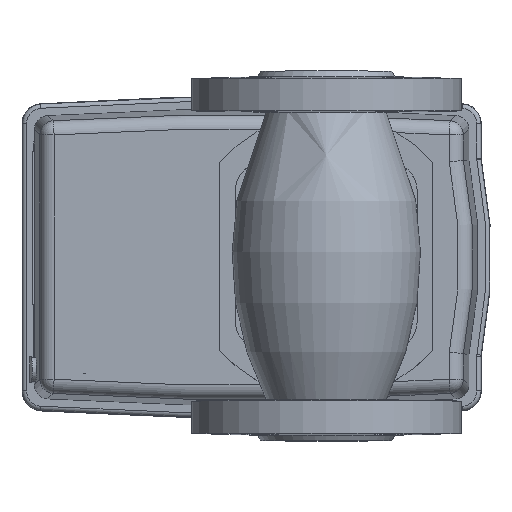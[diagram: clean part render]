
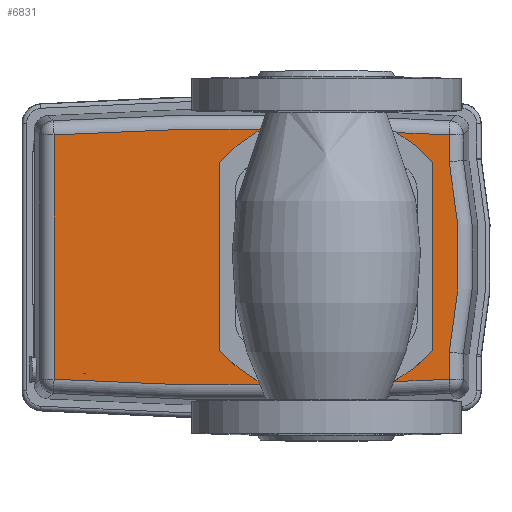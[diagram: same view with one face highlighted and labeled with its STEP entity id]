
A CAD part, top view. The second image highlights one B-rep face of the part: STEP entity #6831.
In plain terms, the highlighted planar face has unit normal (0, 0, 1).
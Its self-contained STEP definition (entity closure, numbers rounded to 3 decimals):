
#227=PLANE('',#7328);
#531=LINE('',#10187,#855);
#532=LINE('',#10191,#856);
#533=LINE('',#10195,#857);
#534=LINE('',#10199,#858);
#855=VECTOR('',#8565,1000.);
#856=VECTOR('',#8568,1000.);
#857=VECTOR('',#8571,1000.);
#858=VECTOR('',#8574,1000.);
#1908=ORIENTED_EDGE('',*,*,#2815,.T.);
#1909=ORIENTED_EDGE('',*,*,#2816,.T.);
#1910=ORIENTED_EDGE('',*,*,#2817,.F.);
#1911=ORIENTED_EDGE('',*,*,#2818,.T.);
#1912=ORIENTED_EDGE('',*,*,#2819,.F.);
#1913=ORIENTED_EDGE('',*,*,#2820,.T.);
#1914=ORIENTED_EDGE('',*,*,#2821,.F.);
#1915=ORIENTED_EDGE('',*,*,#2822,.T.);
#1916=ORIENTED_EDGE('',*,*,#2823,.T.);
#2815=EDGE_CURVE('',#3324,#3325,#3621,.T.);
#2816=EDGE_CURVE('',#3325,#3324,#531,.T.);
#2817=EDGE_CURVE('',#3326,#3327,#3622,.T.);
#2818=EDGE_CURVE('',#3326,#3328,#532,.T.);
#2819=EDGE_CURVE('',#3329,#3328,#3623,.T.);
#2820=EDGE_CURVE('',#3329,#3330,#533,.T.);
#2821=EDGE_CURVE('',#3331,#3330,#3624,.T.);
#2822=EDGE_CURVE('',#3331,#3327,#534,.T.);
#2823=EDGE_CURVE('',#3332,#3332,#3625,.T.);
#3324=VERTEX_POINT('',#10185);
#3325=VERTEX_POINT('',#10186);
#3326=VERTEX_POINT('',#10189);
#3327=VERTEX_POINT('',#10190);
#3328=VERTEX_POINT('',#10192);
#3329=VERTEX_POINT('',#10194);
#3330=VERTEX_POINT('',#10196);
#3331=VERTEX_POINT('',#10198);
#3332=VERTEX_POINT('',#10201);
#3621=CIRCLE('',#7329,8.5);
#3622=CIRCLE('',#7330,1090.687);
#3623=CIRCLE('',#7331,163.687);
#3624=CIRCLE('',#7332,1090.687);
#3625=CIRCLE('',#7333,25.358);
#3922=EDGE_LOOP('',(#1908,#1909));
#3923=EDGE_LOOP('',(#1910,#1911,#1912,#1913,#1914,#1915));
#3924=EDGE_LOOP('',(#1916));
#4314=FACE_BOUND('',#3922,.T.);
#4315=FACE_BOUND('',#3923,.T.);
#4316=FACE_BOUND('',#3924,.T.);
#6831=ADVANCED_FACE('',(#4314,#4315,#4316),#227,.F.);
#7328=AXIS2_PLACEMENT_3D('',#10183,#8561,#8562);
#7329=AXIS2_PLACEMENT_3D('',#10184,#8563,#8564);
#7330=AXIS2_PLACEMENT_3D('',#10188,#8566,#8567);
#7331=AXIS2_PLACEMENT_3D('',#10193,#8569,#8570);
#7332=AXIS2_PLACEMENT_3D('',#10197,#8572,#8573);
#7333=AXIS2_PLACEMENT_3D('',#10200,#8575,#8576);
#8561=DIRECTION('',(0.,0.,-1.));
#8562=DIRECTION('',(-1.,0.,0.));
#8563=DIRECTION('',(0.,0.,-1.));
#8564=DIRECTION('',(0.,-1.,0.));
#8565=DIRECTION('',(1.,0.,0.));
#8566=DIRECTION('',(0.,0.,-1.));
#8567=DIRECTION('',(-1.,0.,0.));
#8568=DIRECTION('',(0.,1.,0.));
#8569=DIRECTION('',(0.,0.,-1.));
#8570=DIRECTION('',(-1.,0.,0.));
#8571=DIRECTION('',(0.,1.,0.));
#8572=DIRECTION('',(0.,0.,-1.));
#8573=DIRECTION('',(-1.,0.,0.));
#8574=DIRECTION('',(0.,-1.,0.));
#8575=DIRECTION('',(0.,0.,-1.));
#8576=DIRECTION('',(-1.,0.,0.));
#10183=CARTESIAN_POINT('',(-26.246,1045.513,-24.));
#10184=CARTESIAN_POINT('',(-85.,-32.5,-24.));
#10185=CARTESIAN_POINT('',(-84.594,-40.99,-24.));
#10186=CARTESIAN_POINT('',(-85.406,-40.99,-24.));
#10187=CARTESIAN_POINT('',(-94.651,-40.99,-24.));
#10188=CARTESIAN_POINT('',(-26.246,1045.513,-24.));
#10189=CARTESIAN_POINT('',(43.195,-42.961,-24.));
#10190=CARTESIAN_POINT('',(-95.687,-42.961,-24.));
#10191=CARTESIAN_POINT('',(43.195,1045.513,-24.));
#10192=CARTESIAN_POINT('',(43.195,-33.454,-24.));
#10193=CARTESIAN_POINT('',(-117.037,0.,-24.));
#10194=CARTESIAN_POINT('',(43.195,33.454,-24.));
#10195=CARTESIAN_POINT('',(43.195,1045.513,-24.));
#10196=CARTESIAN_POINT('',(43.195,42.961,-24.));
#10197=CARTESIAN_POINT('',(-26.246,-1045.513,-24.));
#10198=CARTESIAN_POINT('',(-95.687,42.961,-24.));
#10199=CARTESIAN_POINT('',(-95.687,1045.513,-24.));
#10200=CARTESIAN_POINT('',(0.,0.,-24.));
#10201=CARTESIAN_POINT('',(-25.358,0.,-24.));
